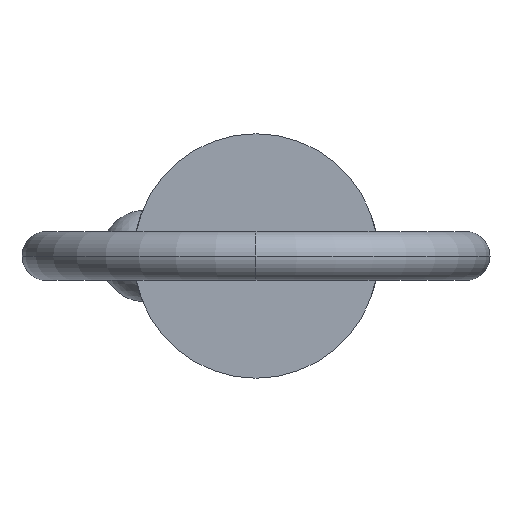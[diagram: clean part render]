
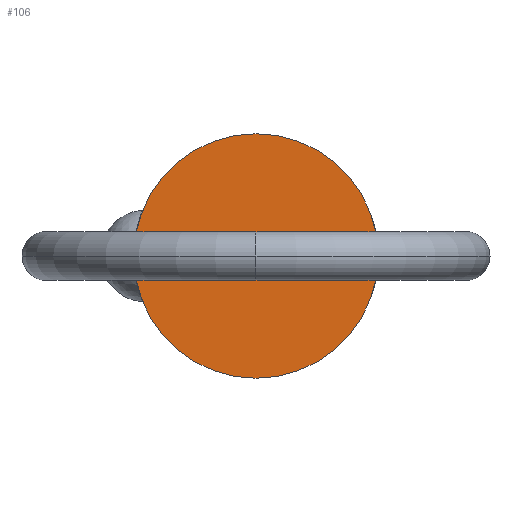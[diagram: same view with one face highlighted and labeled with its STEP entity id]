
A CAD part, left-side view. The second image highlights one B-rep face of the part: STEP entity #106.
In plain terms, the highlighted planar face has unit normal (-1, 0, 0).
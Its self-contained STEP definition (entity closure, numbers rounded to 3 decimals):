
#32 = ORIENTED_EDGE ( 'NONE', *, *, #524, .F. ) ;
#106 = ADVANCED_FACE ( 'NONE', ( #121 ), #416, .T. ) ;
#121 = FACE_OUTER_BOUND ( 'NONE', #824, .T. ) ;
#126 = DIRECTION ( 'NONE',  ( 0., 0., 1. ) ) ;
#137 = DIRECTION ( 'NONE',  ( 0., 0., -1. ) ) ;
#184 = CARTESIAN_POINT ( 'NONE',  ( 0., 0., -11.115 ) ) ;
#213 = CARTESIAN_POINT ( 'NONE',  ( 0., 0., 0. ) ) ;
#241 = AXIS2_PLACEMENT_3D ( 'NONE', #395, #314, #874 ) ;
#314 = DIRECTION ( 'NONE',  ( 1., 0., 0. ) ) ;
#326 = CIRCLE ( 'NONE', #241, 11.115 ) ;
#355 = AXIS2_PLACEMENT_3D ( 'NONE', #213, #782, #137 ) ;
#395 = CARTESIAN_POINT ( 'NONE',  ( 0., 0., 0. ) ) ;
#401 = EDGE_CURVE ( 'NONE', #876, #596, #905, .T. ) ;
#416 = PLANE ( 'NONE',  #831 ) ;
#524 = EDGE_CURVE ( 'NONE', #596, #876, #326, .T. ) ;
#570 = DIRECTION ( 'NONE',  ( -1., 0., 0. ) ) ;
#596 = VERTEX_POINT ( 'NONE', #184 ) ;
#696 = CARTESIAN_POINT ( 'NONE',  ( 0., 0., 0. ) ) ;
#726 = ORIENTED_EDGE ( 'NONE', *, *, #401, .F. ) ;
#782 = DIRECTION ( 'NONE',  ( 1., 0., 0. ) ) ;
#789 = CARTESIAN_POINT ( 'NONE',  ( 0., 0., 11.115 ) ) ;
#824 = EDGE_LOOP ( 'NONE', ( #32, #726 ) ) ;
#831 = AXIS2_PLACEMENT_3D ( 'NONE', #696, #570, #126 ) ;
#874 = DIRECTION ( 'NONE',  ( 0., 0., -1. ) ) ;
#876 = VERTEX_POINT ( 'NONE', #789 ) ;
#905 = CIRCLE ( 'NONE', #355, 11.115 ) ;
